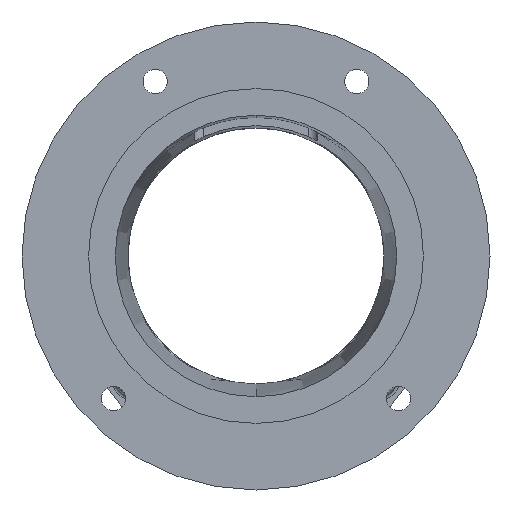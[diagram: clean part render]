
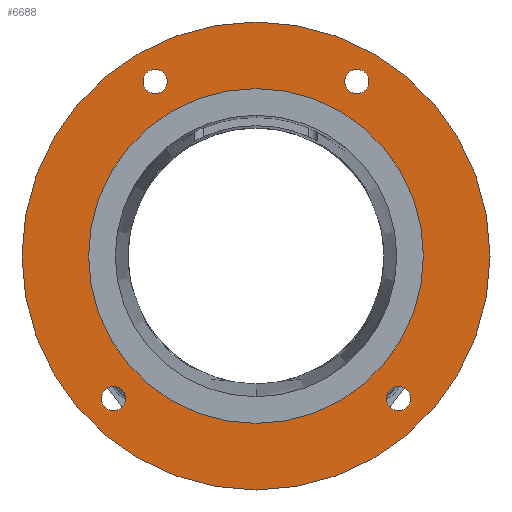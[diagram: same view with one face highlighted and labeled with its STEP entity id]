
A CAD part, front view. The second image highlights one B-rep face of the part: STEP entity #6688.
In plain terms, the highlighted planar face has unit normal (0, -1, 0).
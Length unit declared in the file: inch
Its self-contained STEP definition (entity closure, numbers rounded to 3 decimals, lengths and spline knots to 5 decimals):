
#318 = VERTEX_POINT ( 'NONE', #2653 ) ;
#351 = AXIS2_PLACEMENT_3D ( 'NONE', #5159, #5215, #5235 ) ;
#386 = DIRECTION ( 'NONE',  ( 0., 0., -1. ) ) ;
#429 = CIRCLE ( 'NONE', #1812, 0.23438 ) ;
#444 = CIRCLE ( 'NONE', #6495, 3.2195 ) ;
#668 = ORIENTED_EDGE ( 'NONE', *, *, #2421, .F. ) ;
#709 = EDGE_CURVE ( 'NONE', #6840, #7148, #6336, .T. ) ;
#783 = AXIS2_PLACEMENT_3D ( 'NONE', #1622, #1632, #1639 ) ;
#791 = DIRECTION ( 'NONE',  ( 0., 0., -1. ) ) ;
#796 = DIRECTION ( 'NONE',  ( 0., -1., 0. ) ) ;
#802 = CARTESIAN_POINT ( 'NONE',  ( -1.9375, 0., 3.35585 ) ) ;
#971 = FACE_OUTER_BOUND ( 'NONE', #7831, .T. ) ;
#1164 = FACE_BOUND ( 'NONE', #7770, .T. ) ;
#1178 = DIRECTION ( 'NONE',  ( 0., 0., -1. ) ) ;
#1210 = DIRECTION ( 'NONE',  ( 0., -1., 0. ) ) ;
#1216 = VERTEX_POINT ( 'NONE', #7375 ) ;
#1232 = CARTESIAN_POINT ( 'NONE',  ( -2.74004, 0., -2.74004 ) ) ;
#1343 = DIRECTION ( 'NONE',  ( 0., -1., 0. ) ) ;
#1390 = ORIENTED_EDGE ( 'NONE', *, *, #7671, .F. ) ;
#1486 = DIRECTION ( 'NONE',  ( 0., 0., -1. ) ) ;
#1622 = CARTESIAN_POINT ( 'NONE',  ( 0., 0., 0. ) ) ;
#1632 = DIRECTION ( 'NONE',  ( 0., -1., 0. ) ) ;
#1639 = DIRECTION ( 'NONE',  ( 0., 0., -1. ) ) ;
#1694 = EDGE_CURVE ( 'NONE', #1216, #1994, #429, .T. ) ;
#1727 = AXIS2_PLACEMENT_3D ( 'NONE', #5181, #1343, #5836 ) ;
#1741 = CARTESIAN_POINT ( 'NONE',  ( 0., 0., 0. ) ) ;
#1786 = ORIENTED_EDGE ( 'NONE', *, *, #3146, .F. ) ;
#1812 = AXIS2_PLACEMENT_3D ( 'NONE', #4691, #4689, #1486 ) ;
#1876 = AXIS2_PLACEMENT_3D ( 'NONE', #5135, #5113, #5084 ) ;
#1883 = AXIS2_PLACEMENT_3D ( 'NONE', #8077, #4245, #386 ) ;
#1994 = VERTEX_POINT ( 'NONE', #3084 ) ;
#2174 = CIRCLE ( 'NONE', #4818, 0.23438 ) ;
#2179 = EDGE_LOOP ( 'NONE', ( #2451, #7380 ) ) ;
#2299 = CIRCLE ( 'NONE', #4864, 0.23438 ) ;
#2349 = DIRECTION ( 'NONE',  ( 0., 0., -1. ) ) ;
#2421 = EDGE_CURVE ( 'NONE', #3872, #2765, #4945, .T. ) ;
#2447 = ORIENTED_EDGE ( 'NONE', *, *, #7304, .F. ) ;
#2451 = ORIENTED_EDGE ( 'NONE', *, *, #6478, .F. ) ;
#2464 = CARTESIAN_POINT ( 'NONE',  ( -2.74004, 0., -2.50566 ) ) ;
#2581 = AXIS2_PLACEMENT_3D ( 'NONE', #802, #796, #791 ) ;
#2647 = FACE_BOUND ( 'NONE', #8295, .T. ) ;
#2653 = CARTESIAN_POINT ( 'NONE',  ( 0., 0., -3.2195 ) ) ;
#2765 = VERTEX_POINT ( 'NONE', #8214 ) ;
#2982 = EDGE_CURVE ( 'NONE', #7148, #6840, #7481, .T. ) ;
#3084 = CARTESIAN_POINT ( 'NONE',  ( 2.74004, 0., -2.97441 ) ) ;
#3146 = EDGE_CURVE ( 'NONE', #2765, #3872, #3225, .T. ) ;
#3209 = EDGE_LOOP ( 'NONE', ( #668, #1786 ) ) ;
#3225 = CIRCLE ( 'NONE', #7055, 0.23438 ) ;
#3226 = DIRECTION ( 'NONE',  ( 0., 0., -1. ) ) ;
#3253 = DIRECTION ( 'NONE',  ( 0., -1., 0. ) ) ;
#3260 = ORIENTED_EDGE ( 'NONE', *, *, #7896, .T. ) ;
#3272 = CARTESIAN_POINT ( 'NONE',  ( -1.9375, 0., 3.35585 ) ) ;
#3313 = CIRCLE ( 'NONE', #783, 3.2195 ) ;
#3421 = DIRECTION ( 'NONE',  ( 0., 0., -1. ) ) ;
#3452 = DIRECTION ( 'NONE',  ( 0., -1., 0. ) ) ;
#3484 = CARTESIAN_POINT ( 'NONE',  ( 2.74004, 0., -2.74004 ) ) ;
#3603 = CARTESIAN_POINT ( 'NONE',  ( 0., 0., 4.5 ) ) ;
#3866 = EDGE_CURVE ( 'NONE', #5293, #6070, #5220, .T. ) ;
#3872 = VERTEX_POINT ( 'NONE', #4942 ) ;
#3882 = EDGE_CURVE ( 'NONE', #318, #7488, #3313, .T. ) ;
#3936 = ORIENTED_EDGE ( 'NONE', *, *, #3866, .T. ) ;
#4062 = CIRCLE ( 'NONE', #1727, 4.5 ) ;
#4245 = DIRECTION ( 'NONE',  ( 0., -1., 0. ) ) ;
#4380 = FACE_BOUND ( 'NONE', #2179, .T. ) ;
#4485 = CARTESIAN_POINT ( 'NONE',  ( 0., 0., 3.2195 ) ) ;
#4508 = DIRECTION ( 'NONE',  ( 0., -1., 0. ) ) ;
#4689 = DIRECTION ( 'NONE',  ( 0., -1., 0. ) ) ;
#4691 = CARTESIAN_POINT ( 'NONE',  ( 2.74004, 0., -2.74004 ) ) ;
#4818 = AXIS2_PLACEMENT_3D ( 'NONE', #3484, #3452, #3421 ) ;
#4864 = AXIS2_PLACEMENT_3D ( 'NONE', #1232, #1210, #1178 ) ;
#4942 = CARTESIAN_POINT ( 'NONE',  ( -1.9375, 0., 3.12147 ) ) ;
#4945 = CIRCLE ( 'NONE', #2581, 0.23438 ) ;
#4948 = ORIENTED_EDGE ( 'NONE', *, *, #2982, .F. ) ;
#5084 = DIRECTION ( 'NONE',  ( 0., 0., -1. ) ) ;
#5113 = DIRECTION ( 'NONE',  ( 0., -1., 0. ) ) ;
#5124 = CARTESIAN_POINT ( 'NONE',  ( 1.9375, 0., 3.12147 ) ) ;
#5135 = CARTESIAN_POINT ( 'NONE',  ( 1.9375, 0., 3.35585 ) ) ;
#5159 = CARTESIAN_POINT ( 'NONE',  ( 0., 0., 0. ) ) ;
#5181 = CARTESIAN_POINT ( 'NONE',  ( 0., 0., 0. ) ) ;
#5215 = DIRECTION ( 'NONE',  ( 0., -1., 0. ) ) ;
#5220 = CIRCLE ( 'NONE', #351, 4.5 ) ;
#5228 = DIRECTION ( 'NONE',  ( 0., 0., -1. ) ) ;
#5235 = DIRECTION ( 'NONE',  ( 0., 0., -1. ) ) ;
#5253 = CARTESIAN_POINT ( 'NONE',  ( 1.9375, 0., 3.59022 ) ) ;
#5293 = VERTEX_POINT ( 'NONE', #7445 ) ;
#5525 = ORIENTED_EDGE ( 'NONE', *, *, #5612, .F. ) ;
#5612 = EDGE_CURVE ( 'NONE', #7803, #8207, #2299, .T. ) ;
#5696 = EDGE_LOOP ( 'NONE', ( #5525, #1390 ) ) ;
#5836 = DIRECTION ( 'NONE',  ( 0., 0., -1. ) ) ;
#5948 = AXIS2_PLACEMENT_3D ( 'NONE', #7958, #7383, #7350 ) ;
#6070 = VERTEX_POINT ( 'NONE', #3603 ) ;
#6101 = FACE_BOUND ( 'NONE', #3209, .T. ) ;
#6221 = DIRECTION ( 'NONE',  ( 0., -1., 0. ) ) ;
#6336 = CIRCLE ( 'NONE', #7745, 0.23438 ) ;
#6478 = EDGE_CURVE ( 'NONE', #1994, #1216, #2174, .T. ) ;
#6495 = AXIS2_PLACEMENT_3D ( 'NONE', #1741, #6221, #2349 ) ;
#6688 = ADVANCED_FACE ( 'NONE', ( #6101, #1164, #4380, #8000, #2647, #971 ), #7866, .F. ) ;
#6728 = CARTESIAN_POINT ( 'NONE',  ( 1.9375, 0., 3.35585 ) ) ;
#6820 = CIRCLE ( 'NONE', #1883, 0.23438 ) ;
#6840 = VERTEX_POINT ( 'NONE', #5124 ) ;
#7055 = AXIS2_PLACEMENT_3D ( 'NONE', #3272, #3253, #3226 ) ;
#7148 = VERTEX_POINT ( 'NONE', #5253 ) ;
#7304 = EDGE_CURVE ( 'NONE', #7488, #318, #444, .T. ) ;
#7350 = DIRECTION ( 'NONE',  ( 0., 0., 1. ) ) ;
#7375 = CARTESIAN_POINT ( 'NONE',  ( 2.74004, 0., -2.50566 ) ) ;
#7380 = ORIENTED_EDGE ( 'NONE', *, *, #1694, .F. ) ;
#7383 = DIRECTION ( 'NONE',  ( 0., 1., 0. ) ) ;
#7445 = CARTESIAN_POINT ( 'NONE',  ( 0., 0., -4.5 ) ) ;
#7481 = CIRCLE ( 'NONE', #1876, 0.23438 ) ;
#7488 = VERTEX_POINT ( 'NONE', #4485 ) ;
#7671 = EDGE_CURVE ( 'NONE', #8207, #7803, #6820, .T. ) ;
#7717 = ORIENTED_EDGE ( 'NONE', *, *, #3882, .F. ) ;
#7745 = AXIS2_PLACEMENT_3D ( 'NONE', #6728, #4508, #5228 ) ;
#7770 = EDGE_LOOP ( 'NONE', ( #8270, #4948 ) ) ;
#7803 = VERTEX_POINT ( 'NONE', #8275 ) ;
#7831 = EDGE_LOOP ( 'NONE', ( #3936, #3260 ) ) ;
#7866 = PLANE ( 'NONE',  #5948 ) ;
#7896 = EDGE_CURVE ( 'NONE', #6070, #5293, #4062, .T. ) ;
#7958 = CARTESIAN_POINT ( 'NONE',  ( -4.5, 0., 0. ) ) ;
#8000 = FACE_BOUND ( 'NONE', #5696, .T. ) ;
#8077 = CARTESIAN_POINT ( 'NONE',  ( -2.74004, 0., -2.74004 ) ) ;
#8207 = VERTEX_POINT ( 'NONE', #2464 ) ;
#8214 = CARTESIAN_POINT ( 'NONE',  ( -1.9375, 0., 3.59022 ) ) ;
#8270 = ORIENTED_EDGE ( 'NONE', *, *, #709, .F. ) ;
#8275 = CARTESIAN_POINT ( 'NONE',  ( -2.74004, 0., -2.97441 ) ) ;
#8295 = EDGE_LOOP ( 'NONE', ( #7717, #2447 ) ) ;
